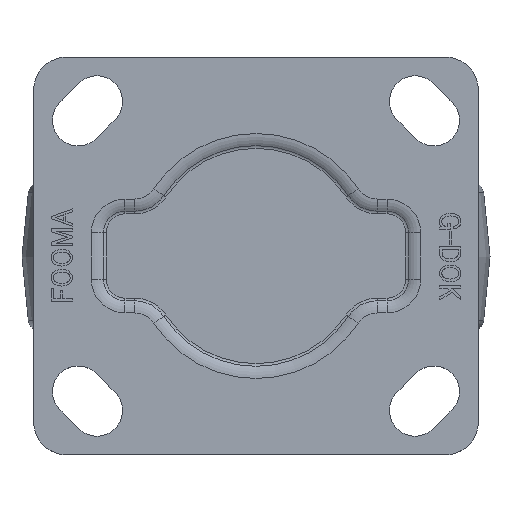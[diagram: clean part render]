
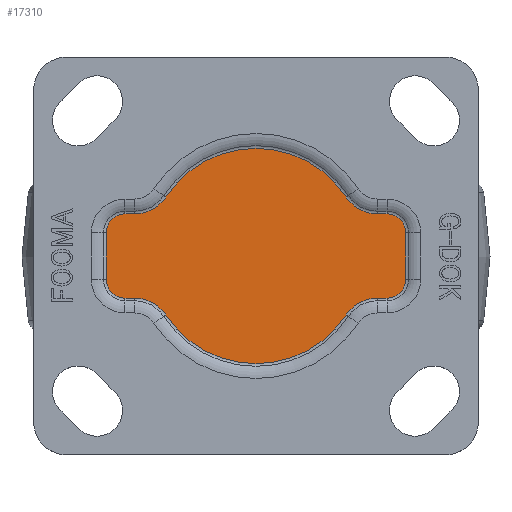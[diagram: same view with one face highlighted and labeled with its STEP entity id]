
A CAD part, top view. The second image highlights one B-rep face of the part: STEP entity #17310.
In plain terms, the highlighted planar face has unit normal (0, 0, 1).
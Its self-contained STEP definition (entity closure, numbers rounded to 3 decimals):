
#1071=LINE('',#34388,#2050);
#1072=LINE('',#34396,#2051);
#1073=LINE('',#34404,#2052);
#1074=LINE('',#34421,#2053);
#1075=LINE('',#34429,#2054);
#1076=LINE('',#34440,#2055);
#2050=VECTOR('',#22583,5.);
#2051=VECTOR('',#22594,5.);
#2052=VECTOR('',#22605,5.);
#2053=VECTOR('',#22630,5.);
#2054=VECTOR('',#22641,5.);
#2055=VECTOR('',#22658,5.);
#2431=PLANE('',#18785);
#4626=FACE_OUTER_BOUND('',#5750,.T.);
#5750=EDGE_LOOP('',(#15136,#15137,#15138,#15139,#15140,#15141,#15142,#15143,
#15144,#15145,#15146,#15147,#15148,#15149,#15150,#15151));
#6463=CIRCLE('',#18744,23.);
#6465=CIRCLE('',#18747,8.);
#6468=CIRCLE('',#18752,4.);
#6471=CIRCLE('',#18757,4.);
#6474=CIRCLE('',#18762,8.);
#6476=CIRCLE('',#18766,23.);
#6478=CIRCLE('',#18769,8.);
#6481=CIRCLE('',#18774,4.);
#6485=CIRCLE('',#18780,8.);
#6486=CIRCLE('',#18782,4.);
#7989=VERTEX_POINT('',#34377);
#7990=VERTEX_POINT('',#34379);
#7991=VERTEX_POINT('',#34383);
#7992=VERTEX_POINT('',#34387);
#7993=VERTEX_POINT('',#34391);
#7994=VERTEX_POINT('',#34395);
#7995=VERTEX_POINT('',#34399);
#7996=VERTEX_POINT('',#34403);
#7997=VERTEX_POINT('',#34407);
#7998=VERTEX_POINT('',#34412);
#7999=VERTEX_POINT('',#34416);
#8000=VERTEX_POINT('',#34420);
#8001=VERTEX_POINT('',#34424);
#8002=VERTEX_POINT('',#34428);
#8003=VERTEX_POINT('',#34432);
#8004=VERTEX_POINT('',#34436);
#10359=EDGE_CURVE('',#7990,#7989,#6463,.T.);
#10361=EDGE_CURVE('',#7991,#7990,#6465,.T.);
#10363=EDGE_CURVE('',#7992,#7991,#1071,.T.);
#10365=EDGE_CURVE('',#7993,#7992,#6468,.T.);
#10367=EDGE_CURVE('',#7994,#7993,#1072,.T.);
#10369=EDGE_CURVE('',#7995,#7994,#6471,.T.);
#10371=EDGE_CURVE('',#7996,#7995,#1073,.T.);
#10373=EDGE_CURVE('',#7997,#7996,#6474,.T.);
#10375=EDGE_CURVE('',#7998,#7997,#6476,.T.);
#10377=EDGE_CURVE('',#7999,#7998,#6478,.T.);
#10379=EDGE_CURVE('',#8000,#7999,#1074,.T.);
#10381=EDGE_CURVE('',#8001,#8000,#6481,.T.);
#10383=EDGE_CURVE('',#8002,#8001,#1075,.T.);
#10386=EDGE_CURVE('',#7989,#8003,#6485,.T.);
#10387=EDGE_CURVE('',#8004,#8002,#6486,.T.);
#10389=EDGE_CURVE('',#8003,#8004,#1076,.T.);
#15136=ORIENTED_EDGE('',*,*,#10371,.T.);
#15137=ORIENTED_EDGE('',*,*,#10369,.T.);
#15138=ORIENTED_EDGE('',*,*,#10367,.T.);
#15139=ORIENTED_EDGE('',*,*,#10365,.T.);
#15140=ORIENTED_EDGE('',*,*,#10363,.T.);
#15141=ORIENTED_EDGE('',*,*,#10361,.T.);
#15142=ORIENTED_EDGE('',*,*,#10359,.T.);
#15143=ORIENTED_EDGE('',*,*,#10386,.T.);
#15144=ORIENTED_EDGE('',*,*,#10389,.T.);
#15145=ORIENTED_EDGE('',*,*,#10387,.T.);
#15146=ORIENTED_EDGE('',*,*,#10383,.T.);
#15147=ORIENTED_EDGE('',*,*,#10381,.T.);
#15148=ORIENTED_EDGE('',*,*,#10379,.T.);
#15149=ORIENTED_EDGE('',*,*,#10377,.T.);
#15150=ORIENTED_EDGE('',*,*,#10375,.T.);
#15151=ORIENTED_EDGE('',*,*,#10373,.T.);
#17310=ADVANCED_FACE('',(#4626),#2431,.T.);
#18744=AXIS2_PLACEMENT_3D('',#34380,#22571,#22572);
#18747=AXIS2_PLACEMENT_3D('',#34384,#22577,#22578);
#18752=AXIS2_PLACEMENT_3D('',#34392,#22588,#22589);
#18757=AXIS2_PLACEMENT_3D('',#34400,#22599,#22600);
#18762=AXIS2_PLACEMENT_3D('',#34408,#22610,#22611);
#18766=AXIS2_PLACEMENT_3D('',#34413,#22618,#22619);
#18769=AXIS2_PLACEMENT_3D('',#34417,#22624,#22625);
#18774=AXIS2_PLACEMENT_3D('',#34425,#22635,#22636);
#18780=AXIS2_PLACEMENT_3D('',#34434,#22648,#22649);
#18782=AXIS2_PLACEMENT_3D('',#34437,#22652,#22653);
#18785=AXIS2_PLACEMENT_3D('',#34441,#22659,#22660);
#22571=DIRECTION('center_axis',(0.,0.,1.));
#22572=DIRECTION('ref_axis',(-0.836,-0.548,0.));
#22577=DIRECTION('center_axis',(0.,0.,-1.));
#22578=DIRECTION('ref_axis',(0.,1.,0.));
#22583=DIRECTION('',(-1.,0.,0.));
#22588=DIRECTION('center_axis',(0.,0.,1.));
#22589=DIRECTION('ref_axis',(-1.,0.,0.));
#22594=DIRECTION('',(0.,1.,0.));
#22599=DIRECTION('center_axis',(0.,0.,1.));
#22600=DIRECTION('ref_axis',(0.,1.,0.));
#22605=DIRECTION('',(1.,0.,0.));
#22610=DIRECTION('center_axis',(0.,0.,-1.));
#22611=DIRECTION('ref_axis',(0.,-1.,0.));
#22618=DIRECTION('center_axis',(0.,0.,1.));
#22619=DIRECTION('ref_axis',(-0.836,0.548,0.));
#22624=DIRECTION('center_axis',(0.,0.,-1.));
#22625=DIRECTION('ref_axis',(-0.836,-0.548,0.));
#22630=DIRECTION('',(1.,0.,0.));
#22635=DIRECTION('center_axis',(0.,0.,1.));
#22636=DIRECTION('ref_axis',(0.,1.,0.));
#22641=DIRECTION('',(0.,-1.,0.));
#22648=DIRECTION('center_axis',(0.,0.,-1.));
#22649=DIRECTION('ref_axis',(-0.836,0.548,0.));
#22652=DIRECTION('center_axis',(0.,0.,1.));
#22653=DIRECTION('ref_axis',(1.,0.,0.));
#22658=DIRECTION('',(-1.,0.,0.));
#22659=DIRECTION('center_axis',(0.,0.,1.));
#22660=DIRECTION('ref_axis',(1.,0.,0.));
#34377=CARTESIAN_POINT('',(-19.233,12.613,-1.));
#34379=CARTESIAN_POINT('',(19.233,12.613,-1.));
#34380=CARTESIAN_POINT('Origin',(0.,0.,-1.));
#34383=CARTESIAN_POINT('',(25.923,9.,-1.));
#34384=CARTESIAN_POINT('Origin',(25.923,17.,-1.));
#34387=CARTESIAN_POINT('',(28.,9.,-1.));
#34388=CARTESIAN_POINT('',(-14.,9.,-1.));
#34391=CARTESIAN_POINT('',(32.,5.,-1.));
#34392=CARTESIAN_POINT('Origin',(28.,5.,-1.));
#34395=CARTESIAN_POINT('',(32.,-5.,-1.));
#34396=CARTESIAN_POINT('',(32.,2.5,-1.));
#34399=CARTESIAN_POINT('',(28.,-9.,-1.));
#34400=CARTESIAN_POINT('Origin',(28.,-5.,-1.));
#34403=CARTESIAN_POINT('',(25.923,-9.,-1.));
#34404=CARTESIAN_POINT('',(14.,-9.,-1.));
#34407=CARTESIAN_POINT('',(19.233,-12.613,-1.));
#34408=CARTESIAN_POINT('Origin',(25.923,-17.,-1.));
#34412=CARTESIAN_POINT('',(-19.233,-12.613,-1.));
#34413=CARTESIAN_POINT('Origin',(0.,0.,-1.));
#34416=CARTESIAN_POINT('',(-25.923,-9.,-1.));
#34417=CARTESIAN_POINT('Origin',(-25.923,-17.,-1.));
#34420=CARTESIAN_POINT('',(-28.,-9.,-1.));
#34421=CARTESIAN_POINT('',(14.,-9.,-1.));
#34424=CARTESIAN_POINT('',(-32.,-5.,-1.));
#34425=CARTESIAN_POINT('Origin',(-28.,-5.,-1.));
#34428=CARTESIAN_POINT('',(-32.,5.,-1.));
#34429=CARTESIAN_POINT('',(-32.,-2.5,-1.));
#34432=CARTESIAN_POINT('',(-25.923,9.,-1.));
#34434=CARTESIAN_POINT('Origin',(-25.923,17.,-1.));
#34436=CARTESIAN_POINT('',(-28.,9.,-1.));
#34437=CARTESIAN_POINT('Origin',(-28.,5.,-1.));
#34440=CARTESIAN_POINT('',(-14.,9.,-1.));
#34441=CARTESIAN_POINT('Origin',(0.,0.,-1.));
